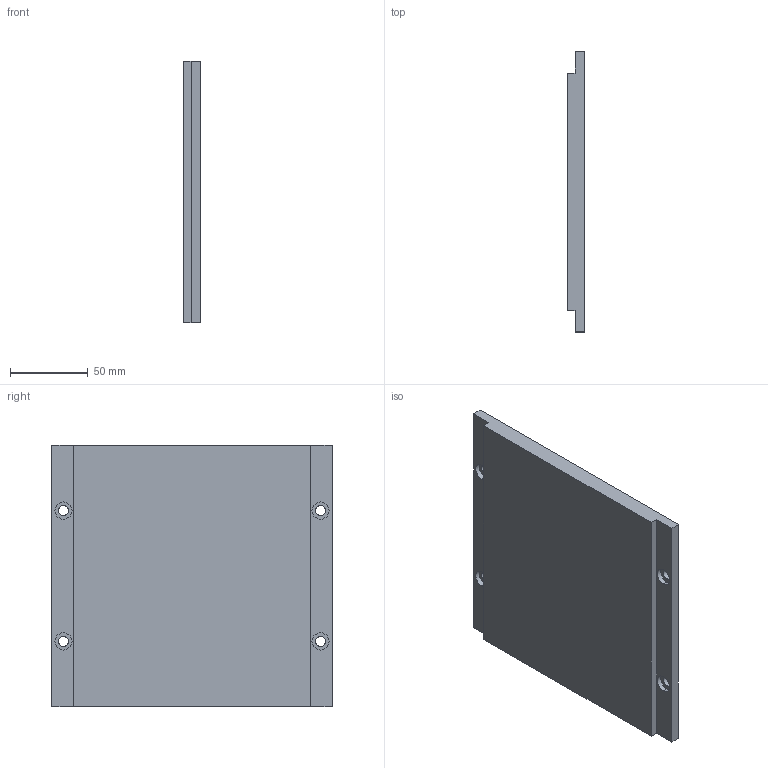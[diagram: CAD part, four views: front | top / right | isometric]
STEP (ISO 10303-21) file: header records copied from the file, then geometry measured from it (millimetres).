
FILE_DESCRIPTION (( 'STEP AP214' ), '1' );
FILE_NAME ('WKM150-168.STEP', '2025-09-05T12:09:52', ( '' ), ( '' ), 'SwSTEP 2.0', 'SolidWorks 2016', '' );
FILE_SCHEMA (( 'AUTOMOTIVE_DESIGN' ));
Length unit declared in the file: millimetre
Products named in the file (1): WKM150-168
Bounding box: 10.8 x 180 x 168 mm (x, y, z)
Volume: 302728.3 mm3; surface area: 68129.5 mm2
Topology: 1 solids, 1 shells, 30 faces, 72 edges, 48 vertices
Faces by surface type: cylinder 16, plane 14
Entity records: 938 total; most frequent: DIRECTION 166, CARTESIAN_POINT 151, ORIENTED_EDGE 144, EDGE_CURVE 72, AXIS2_PLACEMENT_3D 63, VERTEX_POINT 48, EDGE_LOOP 42, VECTOR 40
